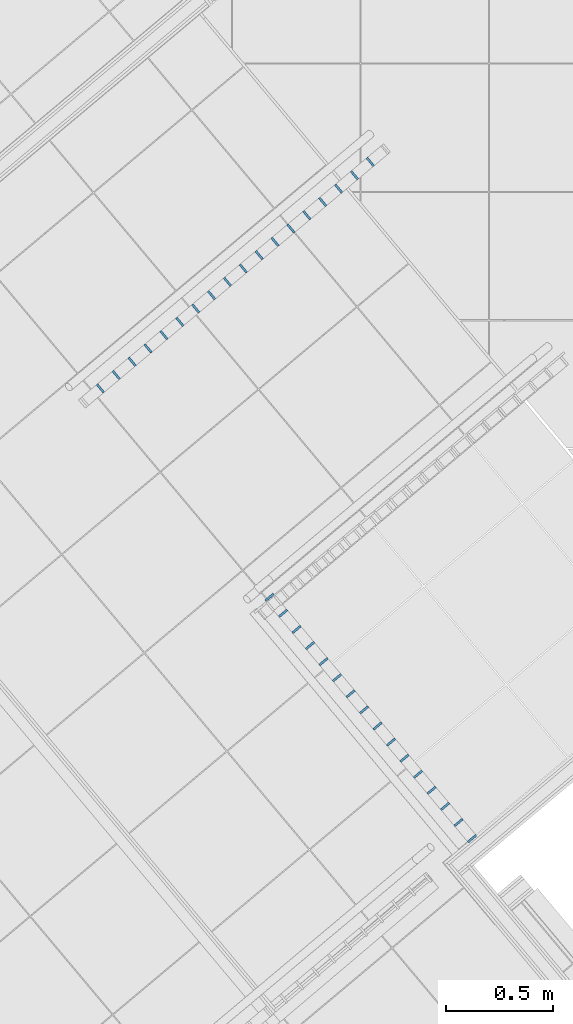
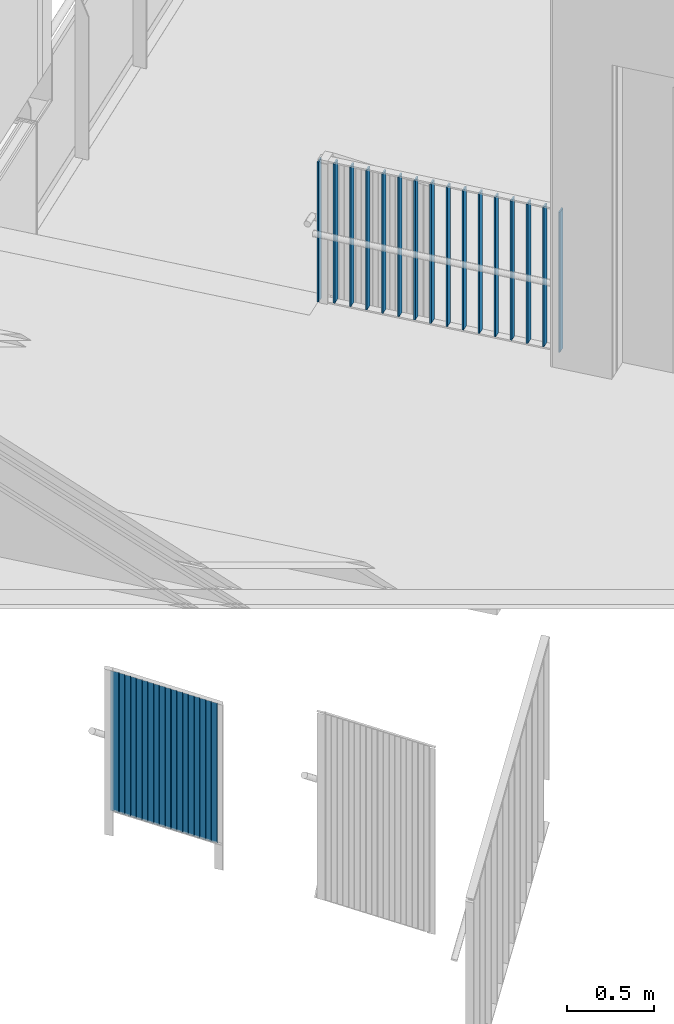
# One storey, part 14 of 321: 34 members, 2 elements without a shape of their own.
"""IFC2X3 building model written with IfcOpenShell, lengths in millimetres."""

from ifc_helpers import new_model, entity, si_unit, converted_unit, derived_unit, money_unit, direction, frame, origin_with_axes, place, context, subcontext, project, spatial, faceted_brep, source, transform, mapped, material, type_object, type_shapes, element, aggregate, save


model = new_model("IFC2X3")

# Units and contexts
model_context = context("Model", 3, precision=0.01, world=origin_with_axes(), true_north=direction((0.0, 1.0)))
plan_context = context("Plan", 3, precision=0.01, world=origin_with_axes(), true_north=direction((0.0, 1.0)))
body_context = subcontext(model_context, "Body", "Model", "MODEL_VIEW")
ifc_project = project(units=[si_unit("LENGTHUNIT", "METRE", prefix="MILLI"), si_unit("AREAUNIT", "SQUARE_METRE"), si_unit("VOLUMEUNIT", "CUBIC_METRE"), converted_unit("PLANEANGLEUNIT", "DEGREE", entity("IfcPlaneAngleMeasure", 0.0174532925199), si_unit("PLANEANGLEUNIT", "RADIAN"), dimensions=[0, 0, 0, 0, 0, 0, 0]), money_unit("EUR"), converted_unit("TIMEUNIT", "Year", entity("IfcTimeMeasure", 31556926.0), si_unit("TIMEUNIT", "SECOND"), dimensions=[0, 0, 1, 0, 0, 0, 0]), si_unit("MASSUNIT", "GRAM", prefix="KILO"), si_unit("THERMODYNAMICTEMPERATUREUNIT", "DEGREE_CELSIUS"), si_unit("LUMINOUSINTENSITYUNIT", "LUMEN"), si_unit("ENERGYUNIT", "JOULE", prefix="MEGA"), derived_unit("THERMALCONDUCTANCEUNIT", [(si_unit("POWERUNIT", "WATT"), 1), (si_unit("LENGTHUNIT", "METRE"), -1), (si_unit("THERMODYNAMICTEMPERATUREUNIT", "KELVIN"), -1)]), derived_unit("SPECIFICHEATCAPACITYUNIT", [(si_unit("ENERGYUNIT", "JOULE"), 1), (si_unit("MASSUNIT", "GRAM", prefix="KILO"), -1), (si_unit("THERMODYNAMICTEMPERATUREUNIT", "KELVIN"), -1)]), derived_unit("MASSDENSITYUNIT", [(si_unit("MASSUNIT", "GRAM", prefix="KILO"), 1), (si_unit("VOLUMEUNIT", "CUBIC_METRE"), -1)])], contexts=[model_context, plan_context])

# Site, building, storey
site_placement = place(None, origin_with_axes())
site = spatial("IfcSite", under=ifc_project, at=site_placement, Name="Fortuinstraat Woensdrecht", CompositionType="ELEMENT")
building_placement = place(site_placement, origin_with_axes())
building = spatial("IfcBuilding", under=site, at=building_placement, Name="IKC Fortuna", CompositionType="ELEMENT")
storey_placement = place(building_placement, frame((0.0, 0.0, 4000.0), z_axis=(0.0, 0.0, 1.0), x_axis=(1.0, 0.0, 0.0)))
storey = spatial("IfcBuildingStorey", under=building, at=storey_placement, Name="01 eerste verdieping", CompositionType="ELEMENT", Elevation=4000.0)

# Railing, members
railing_type = type_object("IfcRailingType", Name="Railing Type", PredefinedType="NOTDEFINED")
railing_1_placement = place(storey_placement, frame((21162.521342, 3493.11146248, 1450.0), z_axis=(0.0, 0.0, 1.0), x_axis=(1.0, 0.0, 0.0)))
railing_1 = element("IfcRailing", 1, at=railing_1_placement, inside=storey, type_object=railing_type, Name="34_Reling_Trapleuning", PredefinedType="NOTDEFINED")
ifc_material = material(Name="Metaal - RVS")
member_type_1 = type_object("IfcMemberType", Name="IfcMember", PredefinedType="POST")
shared_shape_1 = source(origin_with_axes(), body_context, "Body", "Brep", [
    faceted_brep([(25.0, 5.0, 0.0), (-25.0, 5.0, 0.0), (-25.0, 5.0, 980.0), (25.0, 5.0, 980.0), (25.0, -5.0, 0.0), (-25.0, -5.0, 0.0), (-25.0, -5.0, 980.0), (25.0, -5.0, 980.0)], [[[0, 1, 2, 3]], [[0, 4, 5, 1]], [[1, 5, 6, 2]], [[3, 2, 6, 7]], [[4, 0, 3, 7]], [[5, 4, 7, 6]]]),
])
type_shapes(member_type_1, [shared_shape_1])
member_1_placement = place(railing_1_placement, frame((-1517.2366289, -1547.15170713, 0.0), z_axis=(0.0, 0.0, 1.0), x_axis=(1.0, 0.0, 0.0)))
member_1 = element("IfcMember", 2, at=member_1_placement, type_object=member_type_1, material=ifc_material, Name="_Reling - baluster_", ObjectType="POST", context=body_context, shape_type="MappedRepresentation", body=[
    mapped(shared_shape_1, transform((0.0, 0.0, 0.0), x_axis=(-0.766044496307, -0.642787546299, 0.0), y_axis=(0.642787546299, -0.766044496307, 0.0), z_axis=(0.0, 0.0, 1.0))),
])
member_2_placement = place(railing_1_placement, frame((-571.195332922, -2674.60000982, 0.0), z_axis=(0.0, 0.0, 1.0), x_axis=(1.0, 0.0, 0.0)))
member_2 = element("IfcMember", 3, at=member_2_placement, type_object=member_type_1, material=ifc_material, Name="_Reling - baluster_", ObjectType="POST", context=body_context, shape_type="MappedRepresentation", body=[
    mapped(shared_shape_1, transform((0.0, 0.0, 0.0), x_axis=(-0.766044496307, -0.642787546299, 0.0), y_axis=(0.642787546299, -0.766044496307, 0.0), z_axis=(0.0, 0.0, 1.0))),
])
member_type_2 = type_object("IfcMemberType", Name="IfcMember", PredefinedType="MEMBER")
shared_shape_2 = source(origin_with_axes(), body_context, "Body", "Brep", [
    faceted_brep([(25.0, 5.0, 0.0), (-25.0, 5.0, 0.0), (-25.0, 5.0, 975.0), (25.0, 5.0, 975.0), (25.0, -5.0, 0.0), (-25.0, -5.0, 0.0), (-25.0, -5.0, 975.0), (25.0, -5.0, 975.0)], [[[0, 1, 2, 3]], [[0, 4, 5, 1]], [[1, 5, 6, 2]], [[3, 2, 6, 7]], [[4, 0, 3, 7]], [[5, 4, 7, 6]]]),
])
member_3_placement = place(railing_1_placement, frame((-1454.16720917, -1622.31492731, 15.0), z_axis=(0.0, 0.0, 1.0), x_axis=(1.0, 0.0, 0.0)))
member_3 = element("IfcMember", 4, at=member_3_placement, type_object=member_type_2, material=ifc_material, Name="_Onderdeel_Spijlen-x", ObjectType="MEMBER", context=body_context, shape_type="MappedRepresentation", body=[
    mapped(shared_shape_2, transform((0.0, 0.0, 0.0), x_axis=(-0.766044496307, -0.642787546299, 0.0), y_axis=(0.642787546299, -0.766044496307, 0.0), z_axis=(0.0, 0.0, 1.0))),
])
member_4_placement = place(railing_1_placement, frame((-1391.09778944, -1697.47814748, 15.0), z_axis=(0.0, 0.0, 1.0), x_axis=(1.0, 0.0, 0.0)))
member_4 = element("IfcMember", 5, at=member_4_placement, type_object=member_type_2, material=ifc_material, Name="_Onderdeel_Spijlen-x", ObjectType="MEMBER", context=body_context, shape_type="MappedRepresentation", body=[
    mapped(shared_shape_2, transform((0.0, 0.0, 0.0), x_axis=(-0.766044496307, -0.642787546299, 0.0), y_axis=(0.642787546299, -0.766044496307, 0.0), z_axis=(0.0, 0.0, 1.0))),
])
member_5_placement = place(railing_1_placement, frame((-1328.02836971, -1772.64136766, 15.0), z_axis=(0.0, 0.0, 1.0), x_axis=(1.0, 0.0, 0.0)))
member_5 = element("IfcMember", 6, at=member_5_placement, type_object=member_type_2, material=ifc_material, Name="_Onderdeel_Spijlen-x", ObjectType="MEMBER", context=body_context, shape_type="MappedRepresentation", body=[
    mapped(shared_shape_2, transform((0.0, 0.0, 0.0), x_axis=(-0.766044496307, -0.642787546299, 0.0), y_axis=(0.642787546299, -0.766044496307, 0.0), z_axis=(0.0, 0.0, 1.0))),
])
member_6_placement = place(railing_1_placement, frame((-1264.95894998, -1847.80458784, 15.0), z_axis=(0.0, 0.0, 1.0), x_axis=(1.0, 0.0, 0.0)))
member_6 = element("IfcMember", 7, at=member_6_placement, type_object=member_type_2, material=ifc_material, Name="_Onderdeel_Spijlen-x", ObjectType="MEMBER", context=body_context, shape_type="MappedRepresentation", body=[
    mapped(shared_shape_2, transform((0.0, 0.0, 0.0), x_axis=(-0.766044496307, -0.642787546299, 0.0), y_axis=(0.642787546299, -0.766044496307, 0.0), z_axis=(0.0, 0.0, 1.0))),
])
member_7_placement = place(railing_1_placement, frame((-1201.88953024, -1922.96780802, 15.0), z_axis=(0.0, 0.0, 1.0), x_axis=(1.0, 0.0, 0.0)))
member_7 = element("IfcMember", 8, at=member_7_placement, type_object=member_type_2, material=ifc_material, Name="_Onderdeel_Spijlen-x", ObjectType="MEMBER", context=body_context, shape_type="MappedRepresentation", body=[
    mapped(shared_shape_2, transform((0.0, 0.0, 0.0), x_axis=(-0.766044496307, -0.642787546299, 0.0), y_axis=(0.642787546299, -0.766044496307, 0.0), z_axis=(0.0, 0.0, 1.0))),
])
member_8_placement = place(railing_1_placement, frame((-1138.82011051, -1998.1310282, 15.0), z_axis=(0.0, 0.0, 1.0), x_axis=(1.0, 0.0, 0.0)))
member_8 = element("IfcMember", 9, at=member_8_placement, type_object=member_type_2, material=ifc_material, Name="_Onderdeel_Spijlen-x", ObjectType="MEMBER", context=body_context, shape_type="MappedRepresentation", body=[
    mapped(shared_shape_2, transform((0.0, 0.0, 0.0), x_axis=(-0.766044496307, -0.642787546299, 0.0), y_axis=(0.642787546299, -0.766044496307, 0.0), z_axis=(0.0, 0.0, 1.0))),
])
member_9_placement = place(railing_1_placement, frame((-1075.75069078, -2073.29424838, 15.0), z_axis=(0.0, 0.0, 1.0), x_axis=(1.0, 0.0, 0.0)))
member_9 = element("IfcMember", 10, at=member_9_placement, type_object=member_type_2, material=ifc_material, Name="_Onderdeel_Spijlen-x", ObjectType="MEMBER", context=body_context, shape_type="MappedRepresentation", body=[
    mapped(shared_shape_2, transform((0.0, 0.0, 0.0), x_axis=(-0.766044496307, -0.642787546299, 0.0), y_axis=(0.642787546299, -0.766044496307, 0.0), z_axis=(0.0, 0.0, 1.0))),
])
member_10_placement = place(railing_1_placement, frame((-1012.68127105, -2148.45746856, 15.0), z_axis=(0.0, 0.0, 1.0), x_axis=(1.0, 0.0, 0.0)))
member_10 = element("IfcMember", 11, at=member_10_placement, type_object=member_type_2, material=ifc_material, Name="_Onderdeel_Spijlen-x", ObjectType="MEMBER", context=body_context, shape_type="MappedRepresentation", body=[
    mapped(shared_shape_2, transform((0.0, 0.0, 0.0), x_axis=(-0.766044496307, -0.642787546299, 0.0), y_axis=(0.642787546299, -0.766044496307, 0.0), z_axis=(0.0, 0.0, 1.0))),
])
member_11_placement = place(railing_1_placement, frame((-949.611851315, -2223.62068874, 15.0), z_axis=(0.0, 0.0, 1.0), x_axis=(1.0, 0.0, 0.0)))
member_11 = element("IfcMember", 12, at=member_11_placement, type_object=member_type_2, material=ifc_material, Name="_Onderdeel_Spijlen-x", ObjectType="MEMBER", context=body_context, shape_type="MappedRepresentation", body=[
    mapped(shared_shape_2, transform((0.0, 0.0, 0.0), x_axis=(-0.766044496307, -0.642787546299, 0.0), y_axis=(0.642787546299, -0.766044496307, 0.0), z_axis=(0.0, 0.0, 1.0))),
])
member_12_placement = place(railing_1_placement, frame((-886.542431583, -2298.78390892, 15.0), z_axis=(0.0, 0.0, 1.0), x_axis=(1.0, 0.0, 0.0)))
member_12 = element("IfcMember", 13, at=member_12_placement, type_object=member_type_2, material=ifc_material, Name="_Onderdeel_Spijlen-x", ObjectType="MEMBER", context=body_context, shape_type="MappedRepresentation", body=[
    mapped(shared_shape_2, transform((0.0, 0.0, 0.0), x_axis=(-0.766044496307, -0.642787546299, 0.0), y_axis=(0.642787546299, -0.766044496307, 0.0), z_axis=(0.0, 0.0, 1.0))),
])
member_13_placement = place(railing_1_placement, frame((-823.473011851, -2373.9471291, 15.0), z_axis=(0.0, 0.0, 1.0), x_axis=(1.0, 0.0, 0.0)))
member_13 = element("IfcMember", 14, at=member_13_placement, type_object=member_type_2, material=ifc_material, Name="_Onderdeel_Spijlen-x", ObjectType="MEMBER", context=body_context, shape_type="MappedRepresentation", body=[
    mapped(shared_shape_2, transform((0.0, 0.0, 0.0), x_axis=(-0.766044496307, -0.642787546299, 0.0), y_axis=(0.642787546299, -0.766044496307, 0.0), z_axis=(0.0, 0.0, 1.0))),
])
member_14_placement = place(railing_1_placement, frame((-760.403592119, -2449.11034928, 15.0), z_axis=(0.0, 0.0, 1.0), x_axis=(1.0, 0.0, 0.0)))
member_14 = element("IfcMember", 15, at=member_14_placement, type_object=member_type_2, material=ifc_material, Name="_Onderdeel_Spijlen-x", ObjectType="MEMBER", context=body_context, shape_type="MappedRepresentation", body=[
    mapped(shared_shape_2, transform((0.0, 0.0, 0.0), x_axis=(-0.766044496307, -0.642787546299, 0.0), y_axis=(0.642787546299, -0.766044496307, 0.0), z_axis=(0.0, 0.0, 1.0))),
])
member_15_placement = place(railing_1_placement, frame((-697.334172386, -2524.27356946, 15.0), z_axis=(0.0, 0.0, 1.0), x_axis=(1.0, 0.0, 0.0)))
member_15 = element("IfcMember", 16, at=member_15_placement, type_object=member_type_2, material=ifc_material, Name="_Onderdeel_Spijlen-x", ObjectType="MEMBER", context=body_context, shape_type="MappedRepresentation", body=[
    mapped(shared_shape_2, transform((0.0, 0.0, 0.0), x_axis=(-0.766044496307, -0.642787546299, 0.0), y_axis=(0.642787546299, -0.766044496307, 0.0), z_axis=(0.0, 0.0, 1.0))),
])
member_16_placement = place(railing_1_placement, frame((-634.264752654, -2599.43678964, 15.0), z_axis=(0.0, 0.0, 1.0), x_axis=(1.0, 0.0, 0.0)))
member_16 = element("IfcMember", 17, at=member_16_placement, type_object=member_type_2, material=ifc_material, Name="_Onderdeel_Spijlen-x", ObjectType="MEMBER", context=body_context, shape_type="MappedRepresentation", body=[
    mapped(shared_shape_2, transform((0.0, 0.0, 0.0), x_axis=(-0.766044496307, -0.642787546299, 0.0), y_axis=(0.642787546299, -0.766044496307, 0.0), z_axis=(0.0, 0.0, 1.0))),
])
aggregate(railing_1, [member_1, member_2, member_3, member_4, member_5, member_6, member_7, member_8, member_9, member_10, member_11, member_12, member_13, member_14, member_15, member_16])

railing_2_placement = place(storey_placement, frame((20190.3043408, 4042.29479627, -3818.75), z_axis=(0.0, 0.0, 1.0), x_axis=(1.0, 0.0, 0.0)))
railing_2 = element("IfcRailing", 18, at=railing_2_placement, inside=storey, type_object=railing_type, Name="34_Reling_Trapleuning", PredefinedType="NOTDEFINED")
shared_shape_3 = source(origin_with_axes(), body_context, "Body", "Brep", [
    faceted_brep([(25.0, 5.0, 3.9402173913), (-25.0, 5.0, 3.9402173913), (-25.0, 5.0, 981.440217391), (25.0, 5.0, 981.440217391), (25.0, -5.0, -3.9402173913), (-25.0, -5.0, -3.9402173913), (-25.0, -5.0, 973.559782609), (25.0, -5.0, 973.559782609)], [[[0, 1, 2, 3]], [[0, 4, 5, 1]], [[1, 5, 6, 2]], [[3, 2, 6, 7]], [[4, 0, 3, 7]], [[5, 4, 7, 6]]]),
])
type_shapes(member_type_2, [shared_shape_2, shared_shape_3])
member_17_placement = place(railing_2_placement, frame((-74.1842901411, -62.2480104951, 76.3146923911), z_axis=(0.0, 0.0, 1.0), x_axis=(1.0, 0.0, 0.0)))
member_17 = element("IfcMember", 19, at=member_17_placement, type_object=member_type_2, material=ifc_material, Name="_Onderdeel_Spijlen-x", ObjectType="MEMBER", context=body_context, shape_type="MappedRepresentation", body=[
    mapped(shared_shape_3, transform((0.0, 0.0, 0.0), x_axis=(-0.642787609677, 0.766044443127, 0.0), y_axis=(-0.766044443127, -0.642787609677, 0.0), z_axis=(0.0, 0.0, 1.0))),
])
member_18_placement = place(railing_2_placement, frame((-148.368580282, -124.49602099, 152.629384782), z_axis=(0.0, 0.0, 1.0), x_axis=(1.0, 0.0, 0.0)))
member_18 = element("IfcMember", 20, at=member_18_placement, type_object=member_type_2, material=ifc_material, Name="_Onderdeel_Spijlen-x", ObjectType="MEMBER", context=body_context, shape_type="MappedRepresentation", body=[
    mapped(shared_shape_3, transform((0.0, 0.0, 0.0), x_axis=(-0.642787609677, 0.766044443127, 0.0), y_axis=(-0.766044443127, -0.642787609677, 0.0), z_axis=(0.0, 0.0, 1.0))),
])
member_19_placement = place(railing_2_placement, frame((-222.552870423, -186.744031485, 228.944077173), z_axis=(0.0, 0.0, 1.0), x_axis=(1.0, 0.0, 0.0)))
member_19 = element("IfcMember", 21, at=member_19_placement, type_object=member_type_2, material=ifc_material, Name="_Onderdeel_Spijlen-x", ObjectType="MEMBER", context=body_context, shape_type="MappedRepresentation", body=[
    mapped(shared_shape_3, transform((0.0, 0.0, 0.0), x_axis=(-0.642787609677, 0.766044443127, 0.0), y_axis=(-0.766044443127, -0.642787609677, 0.0), z_axis=(0.0, 0.0, 1.0))),
])
member_20_placement = place(railing_2_placement, frame((-296.737160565, -248.99204198, 305.258769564), z_axis=(0.0, 0.0, 1.0), x_axis=(1.0, 0.0, 0.0)))
member_20 = element("IfcMember", 22, at=member_20_placement, type_object=member_type_2, material=ifc_material, Name="_Onderdeel_Spijlen-x", ObjectType="MEMBER", context=body_context, shape_type="MappedRepresentation", body=[
    mapped(shared_shape_3, transform((0.0, 0.0, 0.0), x_axis=(-0.642787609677, 0.766044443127, 0.0), y_axis=(-0.766044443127, -0.642787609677, 0.0), z_axis=(0.0, 0.0, 1.0))),
])
member_21_placement = place(railing_2_placement, frame((-370.921450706, -311.240052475, 381.573461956), z_axis=(0.0, 0.0, 1.0), x_axis=(1.0, 0.0, 0.0)))
member_21 = element("IfcMember", 23, at=member_21_placement, type_object=member_type_2, material=ifc_material, Name="_Onderdeel_Spijlen-x", ObjectType="MEMBER", context=body_context, shape_type="MappedRepresentation", body=[
    mapped(shared_shape_3, transform((0.0, 0.0, 0.0), x_axis=(-0.642787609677, 0.766044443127, 0.0), y_axis=(-0.766044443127, -0.642787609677, 0.0), z_axis=(0.0, 0.0, 1.0))),
])
member_22_placement = place(railing_2_placement, frame((-445.105740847, -373.48806297, 457.888154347), z_axis=(0.0, 0.0, 1.0), x_axis=(1.0, 0.0, 0.0)))
member_22 = element("IfcMember", 24, at=member_22_placement, type_object=member_type_2, material=ifc_material, Name="_Onderdeel_Spijlen-x", ObjectType="MEMBER", context=body_context, shape_type="MappedRepresentation", body=[
    mapped(shared_shape_3, transform((0.0, 0.0, 0.0), x_axis=(-0.642787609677, 0.766044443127, 0.0), y_axis=(-0.766044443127, -0.642787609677, 0.0), z_axis=(0.0, 0.0, 1.0))),
])
member_23_placement = place(railing_2_placement, frame((-519.290030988, -435.736073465, 534.202846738), z_axis=(0.0, 0.0, 1.0), x_axis=(1.0, 0.0, 0.0)))
member_23 = element("IfcMember", 25, at=member_23_placement, type_object=member_type_2, material=ifc_material, Name="_Onderdeel_Spijlen-x", ObjectType="MEMBER", context=body_context, shape_type="MappedRepresentation", body=[
    mapped(shared_shape_3, transform((0.0, 0.0, 0.0), x_axis=(-0.642787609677, 0.766044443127, 0.0), y_axis=(-0.766044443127, -0.642787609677, 0.0), z_axis=(0.0, 0.0, 1.0))),
])
member_24_placement = place(railing_2_placement, frame((-593.474321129, -497.98408396, 610.517539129), z_axis=(0.0, 0.0, 1.0), x_axis=(1.0, 0.0, 0.0)))
member_24 = element("IfcMember", 26, at=member_24_placement, type_object=member_type_2, material=ifc_material, Name="_Onderdeel_Spijlen-x", ObjectType="MEMBER", context=body_context, shape_type="MappedRepresentation", body=[
    mapped(shared_shape_3, transform((0.0, 0.0, 0.0), x_axis=(-0.642787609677, 0.766044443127, 0.0), y_axis=(-0.766044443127, -0.642787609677, 0.0), z_axis=(0.0, 0.0, 1.0))),
])
member_25_placement = place(railing_2_placement, frame((-667.65861127, -560.232094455, 686.83223152), z_axis=(0.0, 0.0, 1.0), x_axis=(1.0, 0.0, 0.0)))
member_25 = element("IfcMember", 27, at=member_25_placement, type_object=member_type_2, material=ifc_material, Name="_Onderdeel_Spijlen-x", ObjectType="MEMBER", context=body_context, shape_type="MappedRepresentation", body=[
    mapped(shared_shape_3, transform((0.0, 0.0, 0.0), x_axis=(-0.642787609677, 0.766044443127, 0.0), y_axis=(-0.766044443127, -0.642787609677, 0.0), z_axis=(0.0, 0.0, 1.0))),
])
member_26_placement = place(railing_2_placement, frame((-741.842901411, -622.480104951, 763.146923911), z_axis=(0.0, 0.0, 1.0), x_axis=(1.0, 0.0, 0.0)))
member_26 = element("IfcMember", 28, at=member_26_placement, type_object=member_type_2, material=ifc_material, Name="_Onderdeel_Spijlen-x", ObjectType="MEMBER", context=body_context, shape_type="MappedRepresentation", body=[
    mapped(shared_shape_3, transform((0.0, 0.0, 0.0), x_axis=(-0.642787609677, 0.766044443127, 0.0), y_axis=(-0.766044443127, -0.642787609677, 0.0), z_axis=(0.0, 0.0, 1.0))),
])
member_27_placement = place(railing_2_placement, frame((-816.027191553, -684.728115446, 839.461616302), z_axis=(0.0, 0.0, 1.0), x_axis=(1.0, 0.0, 0.0)))
member_27 = element("IfcMember", 29, at=member_27_placement, type_object=member_type_2, material=ifc_material, Name="_Onderdeel_Spijlen-x", ObjectType="MEMBER", context=body_context, shape_type="MappedRepresentation", body=[
    mapped(shared_shape_3, transform((0.0, 0.0, 0.0), x_axis=(-0.642787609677, 0.766044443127, 0.0), y_axis=(-0.766044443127, -0.642787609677, 0.0), z_axis=(0.0, 0.0, 1.0))),
])
member_28_placement = place(railing_2_placement, frame((-890.211481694, -746.976125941, 915.776308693), z_axis=(0.0, 0.0, 1.0), x_axis=(1.0, 0.0, 0.0)))
member_28 = element("IfcMember", 30, at=member_28_placement, type_object=member_type_2, material=ifc_material, Name="_Onderdeel_Spijlen-x", ObjectType="MEMBER", context=body_context, shape_type="MappedRepresentation", body=[
    mapped(shared_shape_3, transform((0.0, 0.0, 0.0), x_axis=(-0.642787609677, 0.766044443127, 0.0), y_axis=(-0.766044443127, -0.642787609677, 0.0), z_axis=(0.0, 0.0, 1.0))),
])
member_29_placement = place(railing_2_placement, frame((-964.395771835, -809.224136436, 992.091001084), z_axis=(0.0, 0.0, 1.0), x_axis=(1.0, 0.0, 0.0)))
member_29 = element("IfcMember", 31, at=member_29_placement, type_object=member_type_2, material=ifc_material, Name="_Onderdeel_Spijlen-x", ObjectType="MEMBER", context=body_context, shape_type="MappedRepresentation", body=[
    mapped(shared_shape_3, transform((0.0, 0.0, 0.0), x_axis=(-0.642787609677, 0.766044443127, 0.0), y_axis=(-0.766044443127, -0.642787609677, 0.0), z_axis=(0.0, 0.0, 1.0))),
])
member_30_placement = place(railing_2_placement, frame((-1038.58006198, -871.472146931, 1068.40569348), z_axis=(0.0, 0.0, 1.0), x_axis=(1.0, 0.0, 0.0)))
member_30 = element("IfcMember", 32, at=member_30_placement, type_object=member_type_2, material=ifc_material, Name="_Onderdeel_Spijlen-x", ObjectType="MEMBER", context=body_context, shape_type="MappedRepresentation", body=[
    mapped(shared_shape_3, transform((0.0, 0.0, 0.0), x_axis=(-0.642787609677, 0.766044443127, 0.0), y_axis=(-0.766044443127, -0.642787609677, 0.0), z_axis=(0.0, 0.0, 1.0))),
])
member_31_placement = place(railing_2_placement, frame((-1112.76435212, -933.720157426, 1144.72038587), z_axis=(0.0, 0.0, 1.0), x_axis=(1.0, 0.0, 0.0)))
member_31 = element("IfcMember", 33, at=member_31_placement, type_object=member_type_2, material=ifc_material, Name="_Onderdeel_Spijlen-x", ObjectType="MEMBER", context=body_context, shape_type="MappedRepresentation", body=[
    mapped(shared_shape_3, transform((0.0, 0.0, 0.0), x_axis=(-0.642787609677, 0.766044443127, 0.0), y_axis=(-0.766044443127, -0.642787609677, 0.0), z_axis=(0.0, 0.0, 1.0))),
])
member_32_placement = place(railing_2_placement, frame((-1186.94864226, -995.968167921, 1221.03507826), z_axis=(0.0, 0.0, 1.0), x_axis=(1.0, 0.0, 0.0)))
member_32 = element("IfcMember", 34, at=member_32_placement, type_object=member_type_2, material=ifc_material, Name="_Onderdeel_Spijlen-x", ObjectType="MEMBER", context=body_context, shape_type="MappedRepresentation", body=[
    mapped(shared_shape_3, transform((0.0, 0.0, 0.0), x_axis=(-0.642787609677, 0.766044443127, 0.0), y_axis=(-0.766044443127, -0.642787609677, 0.0), z_axis=(0.0, 0.0, 1.0))),
])
member_33_placement = place(railing_2_placement, frame((-1261.1329324, -1058.21617842, 1297.34977065), z_axis=(0.0, 0.0, 1.0), x_axis=(1.0, 0.0, 0.0)))
member_33 = element("IfcMember", 35, at=member_33_placement, type_object=member_type_2, material=ifc_material, Name="_Onderdeel_Spijlen-x", ObjectType="MEMBER", context=body_context, shape_type="MappedRepresentation", body=[
    mapped(shared_shape_3, transform((0.0, 0.0, 0.0), x_axis=(-0.642787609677, 0.766044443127, 0.0), y_axis=(-0.766044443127, -0.642787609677, 0.0), z_axis=(0.0, 0.0, 1.0))),
])
member_34_placement = place(railing_2_placement, frame((-1335.31722254, -1120.46418891, 1373.66446304), z_axis=(0.0, 0.0, 1.0), x_axis=(1.0, 0.0, 0.0)))
member_34 = element("IfcMember", 36, at=member_34_placement, type_object=member_type_2, material=ifc_material, Name="_Onderdeel_Spijlen-x", ObjectType="MEMBER", context=body_context, shape_type="MappedRepresentation", body=[
    mapped(shared_shape_3, transform((0.0, 0.0, 0.0), x_axis=(-0.642787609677, 0.766044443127, 0.0), y_axis=(-0.766044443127, -0.642787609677, 0.0), z_axis=(0.0, 0.0, 1.0))),
])
aggregate(railing_2, [member_17, member_18, member_19, member_20, member_21, member_22, member_23, member_24, member_25, member_26, member_27, member_28, member_29, member_30, member_31, member_32, member_33, member_34])

save(model, "model.ifc")
